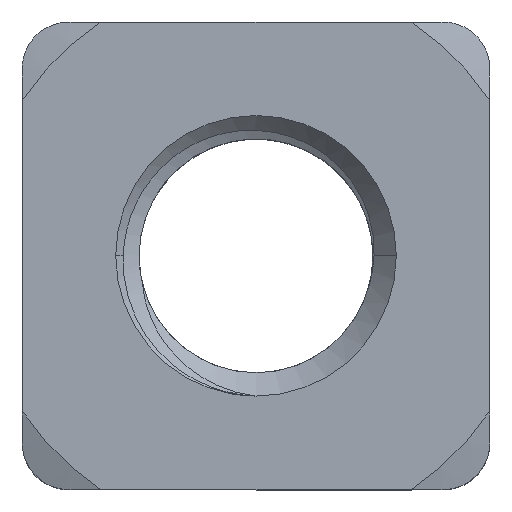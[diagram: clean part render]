
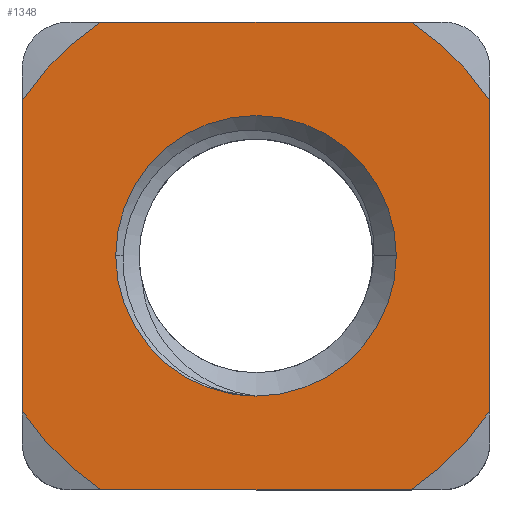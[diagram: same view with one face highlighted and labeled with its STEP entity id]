
A CAD part, top view. The second image highlights one B-rep face of the part: STEP entity #1348.
In plain terms, the highlighted planar face has unit normal (0, 0, 1).
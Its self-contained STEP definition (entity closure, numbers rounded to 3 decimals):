
#10 = DIRECTION ( 'NONE',  ( 0., 0., 1. ) ) ;
#30 = VERTEX_POINT ( 'NONE', #1991 ) ;
#49 = CIRCLE ( 'NONE', #1406, 3. ) ;
#88 = DIRECTION ( 'NONE',  ( 1., 0., 0. ) ) ;
#105 = CARTESIAN_POINT ( 'NONE',  ( -5., 5., 2.5 ) ) ;
#133 = CARTESIAN_POINT ( 'NONE',  ( -5., -5., 2.5 ) ) ;
#149 = ORIENTED_EDGE ( 'NONE', *, *, #1667, .T. ) ;
#156 = EDGE_CURVE ( 'NONE', #1189, #766, #1081, .T. ) ;
#190 = CARTESIAN_POINT ( 'NONE',  ( 3.317, -5., 2.5 ) ) ;
#241 = CARTESIAN_POINT ( 'NONE',  ( 0., 0., 2.5 ) ) ;
#273 = CIRCLE ( 'NONE', #887, 6. ) ;
#281 = DIRECTION ( 'NONE',  ( 1., 0., 0. ) ) ;
#313 = VERTEX_POINT ( 'NONE', #1103 ) ;
#318 = DIRECTION ( 'NONE',  ( 0., 0., -1. ) ) ;
#337 = LINE ( 'NONE', #105, #2027 ) ;
#361 = PLANE ( 'NONE',  #960 ) ;
#432 = EDGE_LOOP ( 'NONE', ( #1187, #719, #2150 ) ) ;
#446 = AXIS2_PLACEMENT_3D ( 'NONE', #1280, #819, #591 ) ;
#455 = ORIENTED_EDGE ( 'NONE', *, *, #673, .T. ) ;
#510 = CARTESIAN_POINT ( 'NONE',  ( -5., -5., 2.5 ) ) ;
#536 = EDGE_LOOP ( 'NONE', ( #556, #998, #1007, #1002, #149, #826, #455, #714 ) ) ;
#544 = CARTESIAN_POINT ( 'NONE',  ( 0., 0., 2.5 ) ) ;
#552 = EDGE_CURVE ( 'NONE', #2204, #766, #1475, .T. ) ;
#556 = ORIENTED_EDGE ( 'NONE', *, *, #1755, .T. ) ;
#591 = DIRECTION ( 'NONE',  ( 1., 0., 0. ) ) ;
#602 = DIRECTION ( 'NONE',  ( 1., 0., 0. ) ) ;
#612 = DIRECTION ( 'NONE',  ( 1., 0., 0. ) ) ;
#623 = DIRECTION ( 'NONE',  ( -1., 0., 0. ) ) ;
#669 = VERTEX_POINT ( 'NONE', #739 ) ;
#673 = EDGE_CURVE ( 'NONE', #1927, #2201, #968, .T. ) ;
#674 = FACE_BOUND ( 'NONE', #432, .T. ) ;
#714 = ORIENTED_EDGE ( 'NONE', *, *, #2222, .T. ) ;
#719 = ORIENTED_EDGE ( 'NONE', *, *, #1442, .T. ) ;
#739 = CARTESIAN_POINT ( 'NONE',  ( 0., -3., 2.5 ) ) ;
#764 = CARTESIAN_POINT ( 'NONE',  ( -3.317, -5., 2.5 ) ) ;
#766 = VERTEX_POINT ( 'NONE', #1942 ) ;
#769 = VERTEX_POINT ( 'NONE', #1717 ) ;
#819 = DIRECTION ( 'NONE',  ( 0., 0., 1. ) ) ;
#826 = ORIENTED_EDGE ( 'NONE', *, *, #1102, .T. ) ;
#831 = DIRECTION ( 'NONE',  ( 0., 0., -1. ) ) ;
#841 = DIRECTION ( 'NONE',  ( 0., 0., 1. ) ) ;
#842 = FACE_OUTER_BOUND ( 'NONE', #536, .T. ) ;
#850 = CARTESIAN_POINT ( 'NONE',  ( -5., 5., 2.5 ) ) ;
#887 = AXIS2_PLACEMENT_3D ( 'NONE', #241, #10, #2011 ) ;
#890 = EDGE_CURVE ( 'NONE', #30, #1189, #273, .T. ) ;
#960 = AXIS2_PLACEMENT_3D ( 'NONE', #133, #2131, #1902 ) ;
#968 = LINE ( 'NONE', #510, #1031 ) ;
#972 = CARTESIAN_POINT ( 'NONE',  ( 3.317, 5., 2.5 ) ) ;
#982 = EDGE_CURVE ( 'NONE', #669, #313, #1935, .T. ) ;
#996 = EDGE_CURVE ( 'NONE', #769, #669, #1603, .T. ) ;
#998 = ORIENTED_EDGE ( 'NONE', *, *, #890, .T. ) ;
#1002 = ORIENTED_EDGE ( 'NONE', *, *, #552, .F. ) ;
#1007 = ORIENTED_EDGE ( 'NONE', *, *, #156, .T. ) ;
#1025 = VECTOR ( 'NONE', #623, 1000. ) ;
#1031 = VECTOR ( 'NONE', #281, 1000. ) ;
#1041 = AXIS2_PLACEMENT_3D ( 'NONE', #1814, #1595, #1365 ) ;
#1062 = CARTESIAN_POINT ( 'NONE',  ( 0., 0., 2.5 ) ) ;
#1075 = CARTESIAN_POINT ( 'NONE',  ( 0., 0., 2.5 ) ) ;
#1081 = LINE ( 'NONE', #850, #1025 ) ;
#1102 = EDGE_CURVE ( 'NONE', #1370, #1927, #1429, .T. ) ;
#1103 = CARTESIAN_POINT ( 'NONE',  ( -3., 0., 2.5 ) ) ;
#1120 = AXIS2_PLACEMENT_3D ( 'NONE', #2086, #1863, #1641 ) ;
#1144 = CIRCLE ( 'NONE', #446, 6. ) ;
#1187 = ORIENTED_EDGE ( 'NONE', *, *, #982, .T. ) ;
#1189 = VERTEX_POINT ( 'NONE', #972 ) ;
#1280 = CARTESIAN_POINT ( 'NONE',  ( 0., 0., 2.5 ) ) ;
#1290 = AXIS2_PLACEMENT_3D ( 'NONE', #544, #318, #88 ) ;
#1304 = VERTEX_POINT ( 'NONE', #1619 ) ;
#1348 = ADVANCED_FACE ( 'NONE', ( #674, #842 ), #361, .T. ) ;
#1365 = DIRECTION ( 'NONE',  ( -1., 0., 0. ) ) ;
#1370 = VERTEX_POINT ( 'NONE', #1633 ) ;
#1406 = AXIS2_PLACEMENT_3D ( 'NONE', #1062, #831, #602 ) ;
#1429 = CIRCLE ( 'NONE', #1836, 6. ) ;
#1442 = EDGE_CURVE ( 'NONE', #313, #769, #49, .T. ) ;
#1475 = CIRCLE ( 'NONE', #1041, 6. ) ;
#1595 = DIRECTION ( 'NONE',  ( 0., 0., -1. ) ) ;
#1603 = CIRCLE ( 'NONE', #1120, 3. ) ;
#1619 = CARTESIAN_POINT ( 'NONE',  ( 5., -3.317, 2.5 ) ) ;
#1633 = CARTESIAN_POINT ( 'NONE',  ( -5., -3.317, 2.5 ) ) ;
#1641 = DIRECTION ( 'NONE',  ( 1., 0., 0. ) ) ;
#1667 = EDGE_CURVE ( 'NONE', #2204, #1370, #337, .T. ) ;
#1668 = DIRECTION ( 'NONE',  ( 0., 1., 0. ) ) ;
#1717 = CARTESIAN_POINT ( 'NONE',  ( 3., 0., 2.5 ) ) ;
#1755 = EDGE_CURVE ( 'NONE', #1304, #30, #2116, .T. ) ;
#1814 = CARTESIAN_POINT ( 'NONE',  ( 0., 0., 2.5 ) ) ;
#1836 = AXIS2_PLACEMENT_3D ( 'NONE', #1075, #841, #612 ) ;
#1863 = DIRECTION ( 'NONE',  ( 0., 0., -1. ) ) ;
#1890 = CARTESIAN_POINT ( 'NONE',  ( 5., -5., 2.5 ) ) ;
#1902 = DIRECTION ( 'NONE',  ( 1., 0., 0. ) ) ;
#1927 = VERTEX_POINT ( 'NONE', #764 ) ;
#1935 = CIRCLE ( 'NONE', #1290, 3. ) ;
#1942 = CARTESIAN_POINT ( 'NONE',  ( -3.317, 5., 2.5 ) ) ;
#1991 = CARTESIAN_POINT ( 'NONE',  ( 5., 3.317, 2.5 ) ) ;
#2011 = DIRECTION ( 'NONE',  ( 1., 0., 0. ) ) ;
#2027 = VECTOR ( 'NONE', #2107, 1000. ) ;
#2086 = CARTESIAN_POINT ( 'NONE',  ( 0., 0., 2.5 ) ) ;
#2107 = DIRECTION ( 'NONE',  ( 0., -1., 0. ) ) ;
#2116 = LINE ( 'NONE', #1890, #2133 ) ;
#2131 = DIRECTION ( 'NONE',  ( 0., 0., 1. ) ) ;
#2133 = VECTOR ( 'NONE', #1668, 1000. ) ;
#2150 = ORIENTED_EDGE ( 'NONE', *, *, #996, .T. ) ;
#2187 = CARTESIAN_POINT ( 'NONE',  ( -5., 3.317, 2.5 ) ) ;
#2201 = VERTEX_POINT ( 'NONE', #190 ) ;
#2204 = VERTEX_POINT ( 'NONE', #2187 ) ;
#2222 = EDGE_CURVE ( 'NONE', #2201, #1304, #1144, .T. ) ;
